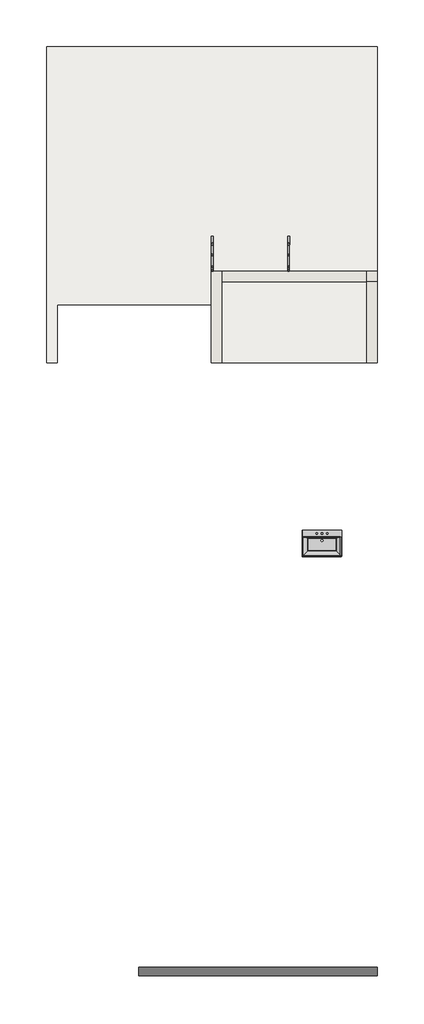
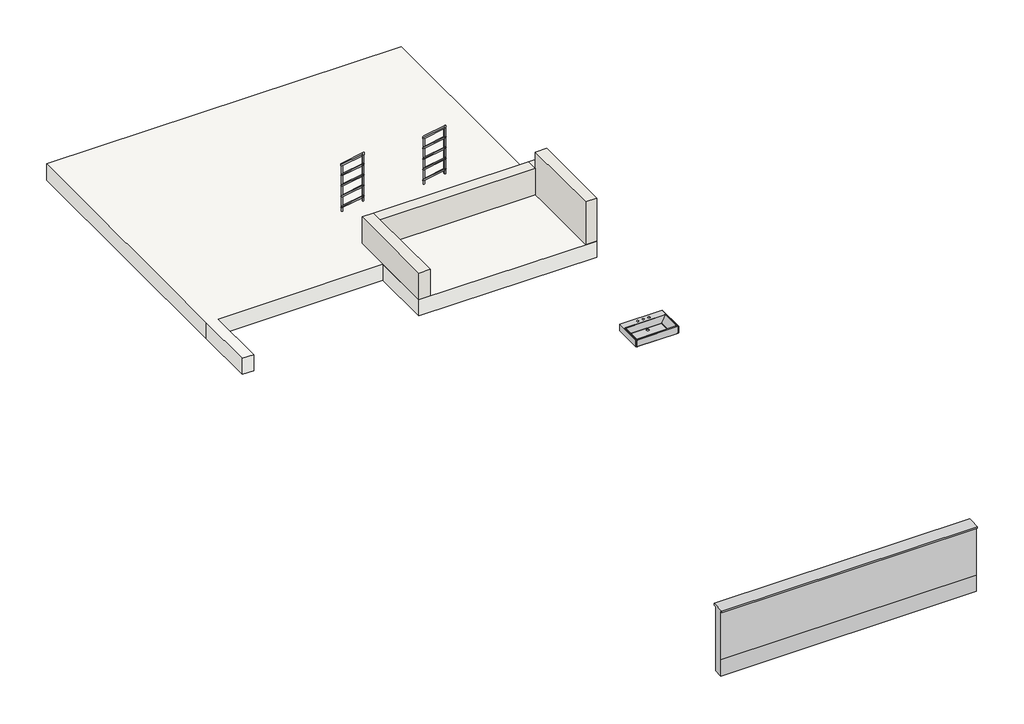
# One storey: 3 walls, 2 railings, 1 flow terminal, 1 proxy, 1 slab.
"""IFC4 building model written with IfcOpenShell, lengths in millimetres."""

from ifc_helpers import new_model, si_unit, frame, origin, place, context, project, spatial, polyline, outline, extrude, faceted_brep, transform, mapped, element, save
from components import m_sink_bathroom_wall_hung_2_650_x_500mm_feced0cd, railing_900mm_pipe_2_48e39727, railing_900mm_pipe_2_317fbd75

model = new_model("IFC4")

# Units and contexts
model_context = context("Model", 3, world=origin())
ifc_project = project(units=[si_unit("LENGTHUNIT", "METRE", prefix="MILLI")], contexts=[model_context])

# Site, building, storey
site = spatial("IfcSite", under=ifc_project)
building = spatial("IfcBuilding", under=site)
storey = spatial("IfcBuildingStorey", under=building, Name="Dvorek", Elevation=-800.0)

# Proxy
placement = place(None, origin())
element("IfcBuildingElementProxy", 1, Name="Parapetto", ObjectType="Parapetto", at=placement, inside=storey, context=model_context, shape_type="Brep", body=[
    faceted_brep([(-6383.3266822, -6901.7671527, -300.0), (-6383.3266822, -7061.7671527, -300.0), (-6383.3266822, -7061.7671527, 0.0), (-6383.3266822, -7061.7671527, 900.0), (-6383.3266822, -7091.7671527, 900.0), (-6383.3266822, -7091.7671527, 930.0), (-6383.3266822, -6851.7671527, 930.0), (-6383.3266822, -6851.7671527, 900.0), (-6383.3266822, -6901.7671527, 900.0), (-6383.3266822, -6901.7671527, 0.0), (-1861.8266822, -6901.7671527, -300.0), (-1861.8266822, -6901.7671527, 0.0), (-1861.8266822, -6901.7671527, 900.0), (-1861.8266822, -6851.7671527, 900.0), (-1861.8266822, -6851.7671527, 930.0), (-1861.8266822, -6901.7671527, 930.0), (-1861.8266822, -7091.7671527, 930.0), (-1861.8266822, -7091.7671527, 900.0), (-1861.8266822, -7061.7671527, 900.0), (-1861.8266822, -7061.7671527, 0.0), (-1861.8266822, -7061.7671527, -300.0)], [[[0, 1, 2, 3, 4, 5, 6, 7, 8, 9]], [[10, 11, 12, 13, 14, 15, 16, 17, 18, 19, 20]], [[1, 0, 10, 20]], [[2, 1, 20, 19]], [[3, 2, 19, 18]], [[4, 3, 18, 17]], [[5, 4, 17, 16]], [[6, 5, 16, 15, 14]], [[7, 6, 14, 13]], [[8, 7, 13, 12]], [[9, 8, 12, 11]], [[0, 9, 11, 10]]]),
])

# Flow terminal
m_sink_bathroom_wall_hung_2_650_x_500mm_shape = m_sink_bathroom_wall_hung_2_650_x_500mm_feced0cd(model_context)
element("IfcFlowTerminal", 2, ObjectType="M_Sink Bathroom Wall Hung_2 : 650 x 500mm", at=placement, inside=storey, context=model_context, shape_type="MappedRepresentation", body=[
    mapped(m_sink_bathroom_wall_hung_2_650_x_500mm_shape, transform((-2785.3578922, 1460.6593598, -800.0), x_axis=(-1.0, 0.0, 0.0), y_axis=(0.0, -1.0, 0.0), z_axis=(0.0, 0.0, 1.0))),
])

# Railings
railing_900mm_pipe_2_shape = railing_900mm_pipe_2_48e39727(model_context)
element("IfcRailing", 3, ObjectType="900mm Pipe 2", at=placement, inside=storey, context=model_context, shape_type="MappedRepresentation", body=[
    mapped(railing_900mm_pipe_2_shape, transform((0.0, 0.0, 0.0), x_axis=(1.0, 0.0, 0.0), y_axis=(0.0, 1.0, 0.0), z_axis=(0.0, 0.0, 1.0))),
])
railing_900mm_pipe_2_2_shape = railing_900mm_pipe_2_317fbd75(model_context)
element("IfcRailing", 4, ObjectType="900mm Pipe 2", at=placement, inside=storey, context=model_context, shape_type="MappedRepresentation", body=[
    mapped(railing_900mm_pipe_2_2_shape, transform((0.0, 0.0, 0.0), x_axis=(1.0, 0.0, 0.0), y_axis=(0.0, 1.0, 0.0), z_axis=(0.0, 0.0, 1.0))),
])

# Slab
element("IfcSlab", 5, ObjectType="Generic 300mm", at=placement, inside=storey, context=model_context, shape_type="SweptSolid", body=[
    extrude(outline(polyline([(-1861.8266822, 4573.2328473), (-5011.8266822, 4573.2328473), (-5011.8266822, 5673.2328473), (-7936.8266822, 5673.2328473), (-7936.8266822, 4573.2328473), (-8136.8266822, 4573.2328473), (-8136.8266822, 5673.2328473), (-8136.8266822, 10573.2328473), (-1861.8266822, 10573.2328473), (-1861.8266822, 4573.2328473)])), frame((0.0, 0.0, -1100.0), z_axis=(0.0, 0.0, 1.0), x_axis=(1.0, 0.0, 0.0)), (0.0, 0.0, 1.0), 300.0),
])

# Walls
element("IfcWall", 6, ObjectType="Generic - 200mm", at=placement, inside=storey, context=model_context, shape_type="Brep", body=[
    faceted_brep([(-4811.8266822, 4576.7328473, -800.0), (-4811.8266822, 6113.2328473, -800.0), (-4811.8266822, 6313.2328473, -800.0), (-4811.8266822, 6313.2328473, -300.0), (-4811.8266822, 6113.2328473, -300.0), (-4811.8266822, 4576.7328473, -300.0), (-5011.8266822, 4576.7328473, -800.0), (-5011.8266822, 4576.7328473, -300.0), (-5011.8266822, 6313.2328473, -300.0), (-5011.8266822, 6313.2328473, -800.0)], [[[0, 1, 2, 3, 4, 5]], [[6, 7, 8, 9]], [[2, 1, 0, 6, 9]], [[3, 2, 9, 8]], [[0, 5, 7, 6]], [[5, 4, 3, 8, 7]]]),
])
element("IfcWall", 7, ObjectType="Generic - 200mm", at=placement, inside=storey, context=model_context, shape_type="Brep", body=[
    faceted_brep([(-4811.8266822, 6113.2328473, -800.0), (-2061.8266822, 6113.2328473, -800.0), (-1861.8266822, 6113.2328473, -800.0), (-1861.8266822, 6113.2328473, -300.0), (-2061.8266822, 6113.2328473, -300.0), (-4811.8266822, 6113.2328473, -300.0), (-4811.8266822, 6313.2328473, -800.0), (-4811.8266822, 6313.2328473, -300.0), (-2061.8266822, 6313.2328473, -300.0), (-1861.8266822, 6313.2328473, -300.0), (-1861.8266822, 6313.2328473, -800.0)], [[[0, 1, 2, 3, 4, 5]], [[6, 7, 8, 9, 10]], [[2, 1, 0, 6, 10]], [[3, 2, 10, 9]], [[0, 5, 7, 6]], [[4, 3, 9, 8]], [[5, 4, 8, 7]]]),
])
element("IfcWall", 8, ObjectType="Generic - 200mm", at=placement, inside=storey, context=model_context, shape_type="Brep", body=[
    faceted_brep([(-2061.8266822, 6113.2328473, -800.0), (-2061.8266822, 4573.2328473, -800.0), (-2061.8266822, 4573.2328473, 0.0), (-2061.8266822, 6113.2328473, 0.0), (-1861.8266822, 6113.2328473, -800.0), (-1861.8266822, 6113.2328473, -300.0), (-1861.8266822, 6113.2328473, 0.0), (-1861.8266822, 4573.2328473, 0.0), (-1861.8266822, 4573.2328473, -800.0)], [[[0, 1, 2, 3]], [[4, 5, 6, 7, 8]], [[1, 0, 4, 8]], [[3, 2, 7, 6]], [[0, 3, 6, 5, 4]], [[2, 1, 8, 7]]]),
])

save(model, "model.ifc")
